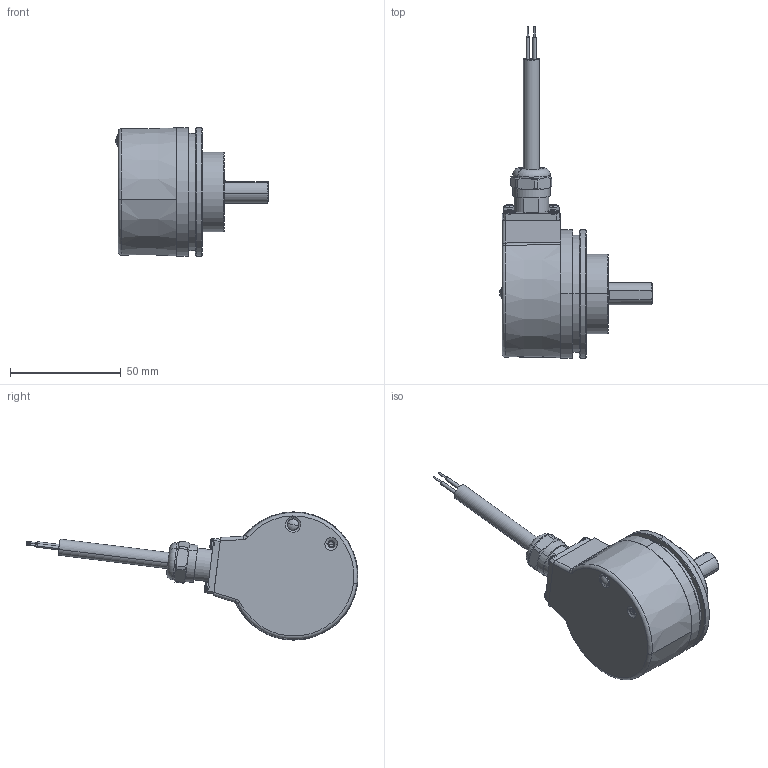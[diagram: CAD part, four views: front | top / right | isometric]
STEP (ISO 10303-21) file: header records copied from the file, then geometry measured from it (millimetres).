
FILE_DESCRIPTION (( 'STEP AP214' ), '1' );
FILE_NAME ('5853SIL.12X2.XXXX.STEP', '2010-07-20T07:48:17', ( 'admin' ), ( 'Fritz Kübler GmbH' ), 'SwSTEP 2.0', 'SolidWorks 2009', '' );
FILE_SCHEMA (( 'AUTOMOTIVE_DESIGN' ));
Length unit declared in the file: millimetre
Products named in the file (1): 5853SIL.12X2.XXXX
Bounding box: 69.12 x 150.2 x 58 mm (x, y, z)
Surface area: 22365.8 mm2 (no closed solid volume)
Topology: 0 solids, 14 shells, 252 faces, 635 edges, 407 vertices
Faces by surface type: plane 92, cylinder 71, cone 51, torus 22, sphere 12, bspline 4
Entity records: 10942 total; most frequent: CARTESIAN_POINT 1931, DIRECTION 1434, ORIENTED_EDGE 1170, EDGE_CURVE 635, AXIS2_PLACEMENT_3D 592, VERTEX_POINT 407, CIRCLE 343, EDGE_LOOP 288
